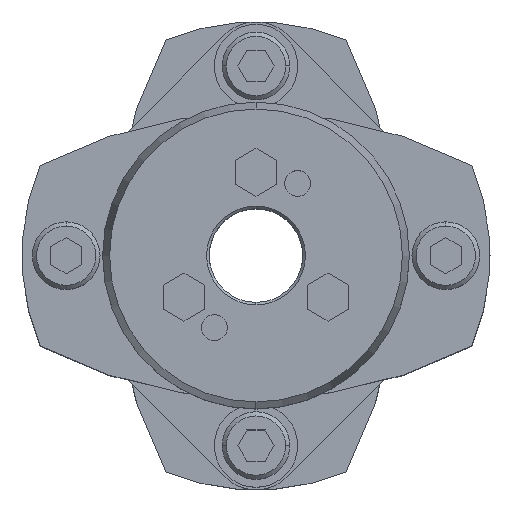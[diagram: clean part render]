
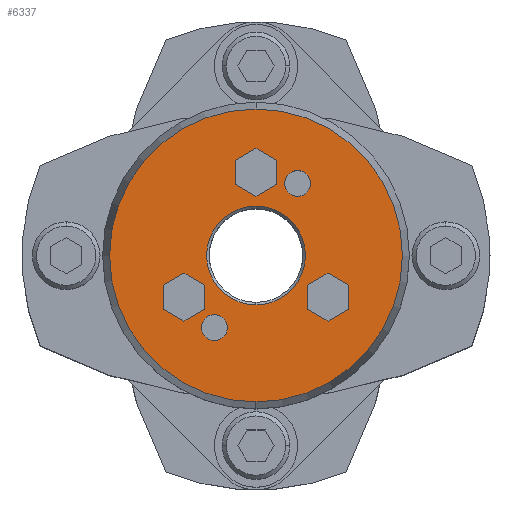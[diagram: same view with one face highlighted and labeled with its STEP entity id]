
A CAD part, top view. The second image highlights one B-rep face of the part: STEP entity #6337.
In plain terms, the highlighted planar face has unit normal (0, 0, 1).
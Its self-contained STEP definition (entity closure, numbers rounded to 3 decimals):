
#1677=CARTESIAN_POINT('',(0.,9.5,52.0));
#1678=VERTEX_POINT('',#1677);
#1694=CARTESIAN_POINT('',(0.,-9.5,52.0));
#1695=VERTEX_POINT('',#1694);
#1702=CARTESIAN_POINT('',(0.,0.,52.0));
#1703=DIRECTION('',(0.0,0.0,1.0));
#1704=DIRECTION('',(0.0,1.0,0.0));
#1705=AXIS2_PLACEMENT_3D('',#1702,#1703,#1704);
#1706=CIRCLE('',#1705,9.5);
#1707=EDGE_CURVE('',#1695,#1678,#1706,.T.);
#1865=CARTESIAN_POINT('',(0.,-28.16,52.0));
#1866=VERTEX_POINT('',#1865);
#1873=CARTESIAN_POINT('',(0.,28.16,52.0));
#1874=VERTEX_POINT('',#1873);
#1875=CARTESIAN_POINT('',(0.,0.,52.0));
#1876=DIRECTION('',(0.0,0.0,-1.0));
#1877=DIRECTION('',(0.0,-1.0,0.0));
#1878=AXIS2_PLACEMENT_3D('',#1875,#1876,#1877);
#1879=CIRCLE('',#1878,28.16);
#1880=EDGE_CURVE('',#1866,#1874,#1879,.T.);
#2123=CARTESIAN_POINT('',(8.,16.356,52.0));
#2124=VERTEX_POINT('',#2123);
#2140=CARTESIAN_POINT('',(8.,11.356,52.0));
#2141=VERTEX_POINT('',#2140);
#2148=CARTESIAN_POINT('',(8.,13.856,52.0));
#2149=DIRECTION('',(0.0,0.0,-1.0));
#2150=DIRECTION('',(0.0,1.0,0.0));
#2151=AXIS2_PLACEMENT_3D('',#2148,#2149,#2150);
#2152=CIRCLE('',#2151,2.5);
#2153=EDGE_CURVE('',#2124,#2141,#2152,.T.);
#2165=CARTESIAN_POINT('',(-8.,-11.356,52.0));
#2166=VERTEX_POINT('',#2165);
#2182=CARTESIAN_POINT('',(-8.,-16.356,52.0));
#2183=VERTEX_POINT('',#2182);
#2190=CARTESIAN_POINT('',(-8.,-13.856,52.0));
#2191=DIRECTION('',(0.0,0.0,-1.0));
#2192=DIRECTION('',(0.0,1.0,0.0));
#2193=AXIS2_PLACEMENT_3D('',#2190,#2191,#2192);
#2194=CIRCLE('',#2193,2.5);
#2195=EDGE_CURVE('',#2166,#2183,#2194,.T.);
#4853=CARTESIAN_POINT('',(13.856,-3.381,52.0));
#4854=VERTEX_POINT('',#4853);
#4861=CARTESIAN_POINT('',(9.856,-5.691,52.0));
#4862=VERTEX_POINT('',#4861);
#4863=CARTESIAN_POINT('',(9.856,-5.691,52.0));
#4864=DIRECTION('',(0.866,0.5,0.0));
#4865=VECTOR('',#4864,4.619);
#4866=LINE('',#4863,#4865);
#4867=EDGE_CURVE('',#4862,#4854,#4866,.T.);
#4891=CARTESIAN_POINT('',(17.856,-5.691,52.0));
#4892=VERTEX_POINT('',#4891);
#4899=CARTESIAN_POINT('',(13.856,-3.381,52.0));
#4900=DIRECTION('',(0.866,-0.5,0.0));
#4901=VECTOR('',#4900,4.619);
#4902=LINE('',#4899,#4901);
#4903=EDGE_CURVE('',#4854,#4892,#4902,.T.);
#4922=CARTESIAN_POINT('',(17.856,-10.309,52.0));
#4923=VERTEX_POINT('',#4922);
#4930=CARTESIAN_POINT('',(17.856,-5.691,52.0));
#4931=DIRECTION('',(0.0,-1.0,0.0));
#4932=VECTOR('',#4931,4.619);
#4933=LINE('',#4930,#4932);
#4934=EDGE_CURVE('',#4892,#4923,#4933,.T.);
#4953=CARTESIAN_POINT('',(13.856,-12.619,52.0));
#4954=VERTEX_POINT('',#4953);
#4961=CARTESIAN_POINT('',(17.856,-10.309,52.0));
#4962=DIRECTION('',(-0.866,-0.5,0.0));
#4963=VECTOR('',#4962,4.619);
#4964=LINE('',#4961,#4963);
#4965=EDGE_CURVE('',#4923,#4954,#4964,.T.);
#4984=CARTESIAN_POINT('',(9.856,-10.309,52.0));
#4985=VERTEX_POINT('',#4984);
#4992=CARTESIAN_POINT('',(13.856,-12.619,52.0));
#4993=DIRECTION('',(-0.866,0.5,0.0));
#4994=VECTOR('',#4993,4.619);
#4995=LINE('',#4992,#4994);
#4996=EDGE_CURVE('',#4954,#4985,#4995,.T.);
#5014=CARTESIAN_POINT('',(9.856,-10.309,52.0));
#5015=DIRECTION('',(0.0,1.0,0.0));
#5016=VECTOR('',#5015,4.619);
#5017=LINE('',#5014,#5016);
#5018=EDGE_CURVE('',#4985,#4862,#5017,.T.);
#5053=CARTESIAN_POINT('',(0.,20.619,52.0));
#5054=VERTEX_POINT('',#5053);
#5061=CARTESIAN_POINT('',(-4.,18.309,52.0));
#5062=VERTEX_POINT('',#5061);
#5063=CARTESIAN_POINT('',(-4.,18.309,52.0));
#5064=DIRECTION('',(0.866,0.5,0.0));
#5065=VECTOR('',#5064,4.619);
#5066=LINE('',#5063,#5065);
#5067=EDGE_CURVE('',#5062,#5054,#5066,.T.);
#5091=CARTESIAN_POINT('',(4.,18.309,52.0));
#5092=VERTEX_POINT('',#5091);
#5099=CARTESIAN_POINT('',(0.,20.619,52.0));
#5100=DIRECTION('',(0.866,-0.5,0.0));
#5101=VECTOR('',#5100,4.619);
#5102=LINE('',#5099,#5101);
#5103=EDGE_CURVE('',#5054,#5092,#5102,.T.);
#5122=CARTESIAN_POINT('',(4.,13.691,52.0));
#5123=VERTEX_POINT('',#5122);
#5130=CARTESIAN_POINT('',(4.,18.309,52.0));
#5131=DIRECTION('',(0.0,-1.0,0.0));
#5132=VECTOR('',#5131,4.619);
#5133=LINE('',#5130,#5132);
#5134=EDGE_CURVE('',#5092,#5123,#5133,.T.);
#5153=CARTESIAN_POINT('',(0.,11.381,52.0));
#5154=VERTEX_POINT('',#5153);
#5161=CARTESIAN_POINT('',(4.,13.691,52.0));
#5162=DIRECTION('',(-0.866,-0.5,0.0));
#5163=VECTOR('',#5162,4.619);
#5164=LINE('',#5161,#5163);
#5165=EDGE_CURVE('',#5123,#5154,#5164,.T.);
#5184=CARTESIAN_POINT('',(-4.,13.691,52.0));
#5185=VERTEX_POINT('',#5184);
#5192=CARTESIAN_POINT('',(0.,11.381,52.0));
#5193=DIRECTION('',(-0.866,0.5,0.0));
#5194=VECTOR('',#5193,4.619);
#5195=LINE('',#5192,#5194);
#5196=EDGE_CURVE('',#5154,#5185,#5195,.T.);
#5214=CARTESIAN_POINT('',(-4.,13.691,52.0));
#5215=DIRECTION('',(0.0,1.0,0.0));
#5216=VECTOR('',#5215,4.619);
#5217=LINE('',#5214,#5216);
#5218=EDGE_CURVE('',#5185,#5062,#5217,.T.);
#5253=CARTESIAN_POINT('',(-13.856,-3.381,52.0));
#5254=VERTEX_POINT('',#5253);
#5261=CARTESIAN_POINT('',(-17.856,-5.691,52.0));
#5262=VERTEX_POINT('',#5261);
#5263=CARTESIAN_POINT('',(-17.856,-5.691,52.0));
#5264=DIRECTION('',(0.866,0.5,0.0));
#5265=VECTOR('',#5264,4.619);
#5266=LINE('',#5263,#5265);
#5267=EDGE_CURVE('',#5262,#5254,#5266,.T.);
#5291=CARTESIAN_POINT('',(-9.856,-5.691,52.0));
#5292=VERTEX_POINT('',#5291);
#5299=CARTESIAN_POINT('',(-13.856,-3.381,52.0));
#5300=DIRECTION('',(0.866,-0.5,0.0));
#5301=VECTOR('',#5300,4.619);
#5302=LINE('',#5299,#5301);
#5303=EDGE_CURVE('',#5254,#5292,#5302,.T.);
#5322=CARTESIAN_POINT('',(-9.856,-10.309,52.0));
#5323=VERTEX_POINT('',#5322);
#5330=CARTESIAN_POINT('',(-9.856,-5.691,52.0));
#5331=DIRECTION('',(0.0,-1.0,0.0));
#5332=VECTOR('',#5331,4.619);
#5333=LINE('',#5330,#5332);
#5334=EDGE_CURVE('',#5292,#5323,#5333,.T.);
#5353=CARTESIAN_POINT('',(-13.856,-12.619,52.0));
#5354=VERTEX_POINT('',#5353);
#5361=CARTESIAN_POINT('',(-9.856,-10.309,52.0));
#5362=DIRECTION('',(-0.866,-0.5,0.0));
#5363=VECTOR('',#5362,4.619);
#5364=LINE('',#5361,#5363);
#5365=EDGE_CURVE('',#5323,#5354,#5364,.T.);
#5384=CARTESIAN_POINT('',(-17.856,-10.309,52.0));
#5385=VERTEX_POINT('',#5384);
#5392=CARTESIAN_POINT('',(-13.856,-12.619,52.0));
#5393=DIRECTION('',(-0.866,0.5,0.0));
#5394=VECTOR('',#5393,4.619);
#5395=LINE('',#5392,#5394);
#5396=EDGE_CURVE('',#5354,#5385,#5395,.T.);
#5414=CARTESIAN_POINT('',(-17.856,-10.309,52.0));
#5415=DIRECTION('',(0.0,1.0,0.0));
#5416=VECTOR('',#5415,4.619);
#5417=LINE('',#5414,#5416);
#5418=EDGE_CURVE('',#5385,#5262,#5417,.T.);
#5444=CARTESIAN_POINT('',(-8.,-13.856,52.0));
#5445=DIRECTION('',(0.0,0.0,-1.0));
#5446=DIRECTION('',(0.0,1.0,0.0));
#5447=AXIS2_PLACEMENT_3D('',#5444,#5445,#5446);
#5448=CIRCLE('',#5447,2.5);
#5449=EDGE_CURVE('',#2183,#2166,#5448,.T.);
#5478=CARTESIAN_POINT('',(8.,13.856,52.0));
#5479=DIRECTION('',(0.0,0.0,-1.0));
#5480=DIRECTION('',(0.0,1.0,0.0));
#5481=AXIS2_PLACEMENT_3D('',#5478,#5479,#5480);
#5482=CIRCLE('',#5481,2.5);
#5483=EDGE_CURVE('',#2141,#2124,#5482,.T.);
#6276=CARTESIAN_POINT('',(0.,0.,52.0));
#6277=DIRECTION('',(0.0,0.0,-1.0));
#6278=DIRECTION('',(0.0,-1.0,0.0));
#6279=AXIS2_PLACEMENT_3D('',#6276,#6277,#6278);
#6280=CIRCLE('',#6279,28.16);
#6281=EDGE_CURVE('',#1874,#1866,#6280,.T.);
#6286=CARTESIAN_POINT('',(0.,2.682,52.0));
#6287=DIRECTION('',(0.0,0.0,1.0));
#6288=DIRECTION('',(0.0,1.0,0.0));
#6289=AXIS2_PLACEMENT_3D('',#6286,#6287,#6288);
#6290=PLANE('',#6289);
#6291=ORIENTED_EDGE('',*,*,#6281,.F.);
#6292=ORIENTED_EDGE('',*,*,#1880,.F.);
#6293=EDGE_LOOP('',(#6291,#6292));
#6294=FACE_OUTER_BOUND('',#6293,.T.);
#6295=ORIENTED_EDGE('',*,*,#4867,.T.);
#6296=ORIENTED_EDGE('',*,*,#4903,.T.);
#6297=ORIENTED_EDGE('',*,*,#4934,.T.);
#6298=ORIENTED_EDGE('',*,*,#4965,.T.);
#6299=ORIENTED_EDGE('',*,*,#4996,.T.);
#6300=ORIENTED_EDGE('',*,*,#5018,.T.);
#6301=EDGE_LOOP('',(#6295,#6296,#6297,#6298,#6299,#6300));
#6302=FACE_BOUND('',#6301,.T.);
#6303=ORIENTED_EDGE('',*,*,#5067,.T.);
#6304=ORIENTED_EDGE('',*,*,#5103,.T.);
#6305=ORIENTED_EDGE('',*,*,#5134,.T.);
#6306=ORIENTED_EDGE('',*,*,#5165,.T.);
#6307=ORIENTED_EDGE('',*,*,#5196,.T.);
#6308=ORIENTED_EDGE('',*,*,#5218,.T.);
#6309=EDGE_LOOP('',(#6303,#6304,#6305,#6306,#6307,#6308));
#6310=FACE_BOUND('',#6309,.T.);
#6311=ORIENTED_EDGE('',*,*,#5267,.T.);
#6312=ORIENTED_EDGE('',*,*,#5303,.T.);
#6313=ORIENTED_EDGE('',*,*,#5334,.T.);
#6314=ORIENTED_EDGE('',*,*,#5365,.T.);
#6315=ORIENTED_EDGE('',*,*,#5396,.T.);
#6316=ORIENTED_EDGE('',*,*,#5418,.T.);
#6317=EDGE_LOOP('',(#6311,#6312,#6313,#6314,#6315,#6316));
#6318=FACE_BOUND('',#6317,.T.);
#6319=ORIENTED_EDGE('',*,*,#2195,.T.);
#6320=ORIENTED_EDGE('',*,*,#5449,.T.);
#6321=EDGE_LOOP('',(#6319,#6320));
#6322=FACE_BOUND('',#6321,.T.);
#6323=ORIENTED_EDGE('',*,*,#2153,.T.);
#6324=ORIENTED_EDGE('',*,*,#5483,.T.);
#6325=EDGE_LOOP('',(#6323,#6324));
#6326=FACE_BOUND('',#6325,.T.);
#6327=ORIENTED_EDGE('',*,*,#1707,.F.);
#6328=CARTESIAN_POINT('',(0.,0.,52.0));
#6329=DIRECTION('',(0.0,0.0,1.0));
#6330=DIRECTION('',(0.0,1.0,0.0));
#6331=AXIS2_PLACEMENT_3D('',#6328,#6329,#6330);
#6332=CIRCLE('',#6331,9.5);
#6333=EDGE_CURVE('',#1678,#1695,#6332,.T.);
#6334=ORIENTED_EDGE('',*,*,#6333,.F.);
#6335=EDGE_LOOP('',(#6327,#6334));
#6336=FACE_BOUND('',#6335,.T.);
#6337=ADVANCED_FACE('',(#6294,#6302,#6310,#6318,#6322,#6326,#6336),#6290,.T.);
